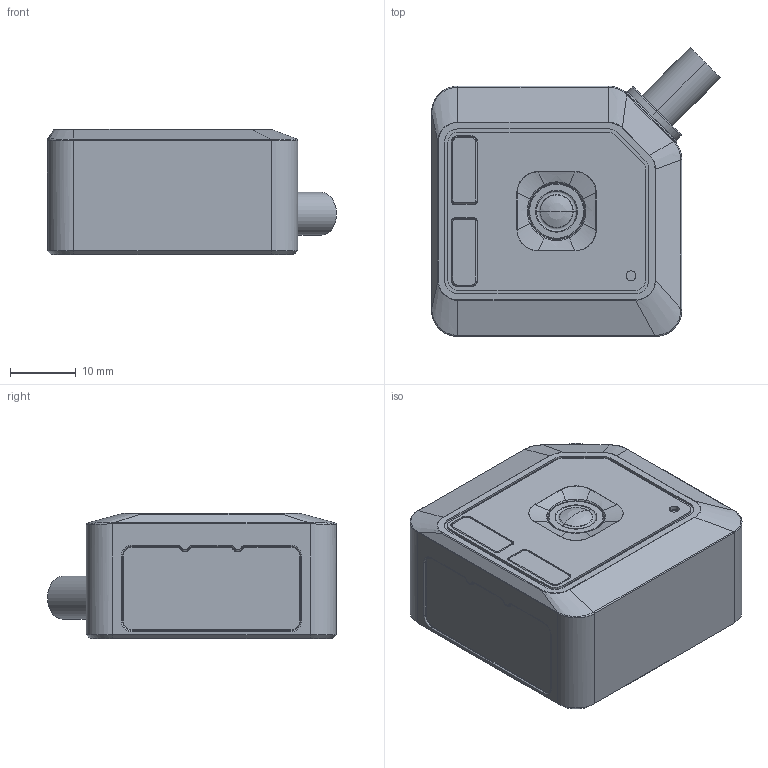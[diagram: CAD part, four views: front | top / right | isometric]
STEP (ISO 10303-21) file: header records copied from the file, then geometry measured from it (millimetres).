
FILE_DESCRIPTION((''),'2;1');
FILE_NAME('PRT0001','2023-09-07T10:52:41',('qiaoxuan5'),(''),'CREO PARAMETRIC BY PTC INC, 2020044','CREO PARAMETRIC BY PTC INC, 2020044','');
FILE_SCHEMA(('CONFIG_CONTROL_DESIGN'));
Length unit declared in the file: millimetre
Products named in the file (1): PRT0001
Bounding box: 43.89 x 43.89 x 19 mm (x, y, z)
Volume: 21879.7 mm3; surface area: 14775.2 mm2
Topology: 1 solids, 6 shells, 1384 faces, 3376 edges, 2030 vertices
Faces by surface type: cylinder 436, plane 360, torus 288, cone 180, bspline 112, sphere 6, extrusion 2
Entity records: 47523 total; most frequent: CARTESIAN_POINT 14903, DIRECTION 7231, ORIENTED_EDGE 6708, EDGE_CURVE 3354, AXIS2_PLACEMENT_3D 2921, VERTEX_POINT 2030, CIRCLE 1649, EDGE_LOOP 1450
